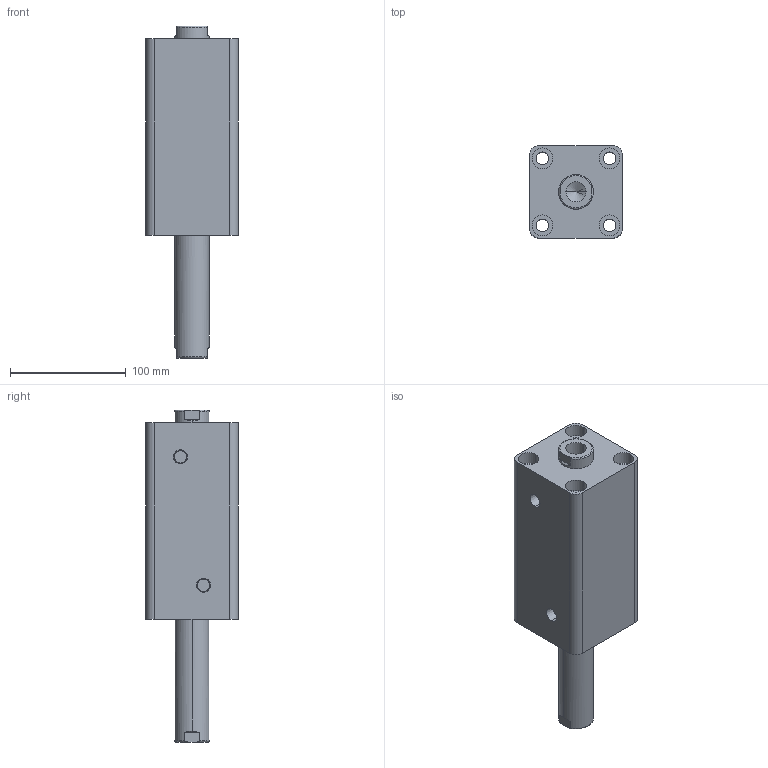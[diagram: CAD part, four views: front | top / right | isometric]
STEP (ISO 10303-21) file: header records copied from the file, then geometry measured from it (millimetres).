
FILE_DESCRIPTION (( 'STEP AP203' ), '1' );
FILE_NAME ('HTB-SW50-95N.STEP', '2019-10-07T09:25:33', ( '微软用户' ), ( '微软中国' ), 'SwSTEP 2.0', 'SolidWorks 2012', '' );
FILE_SCHEMA (( 'CONFIG_CONTROL_DESIGN' ));
Length unit declared in the file: millimetre
Products named in the file (3): HTB-SW50-95N; HTB-SW50-95N活塞杆; HTB-SW50-95掛极
Assembly tree (2 placements, depth 2):
  HTB-SW50-95N
    HTB-SW50-95掛极
    HTB-SW50-95N活塞杆
Bounding box: 80 x 80 x 287 mm (x, y, z)
Volume: 947950.2 mm3; surface area: 149531.7 mm2
Topology: 2 solids, 2 shells, 100 faces, 228 edges, 146 vertices
Faces by surface type: cylinder 48, plane 32, torus 12, cone 8
Entity records: 3237 total; most frequent: CARTESIAN_POINT 595, DIRECTION 542, ORIENTED_EDGE 448, AXIS2_PLACEMENT_3D 229, EDGE_CURVE 224, VERTEX_POINT 146, EDGE_LOOP 128, CIRCLE 124
